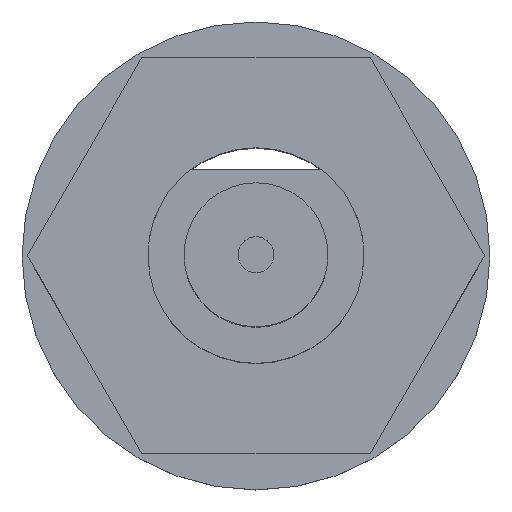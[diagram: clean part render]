
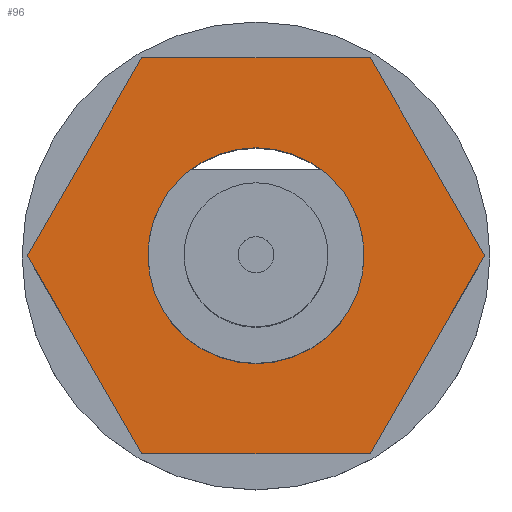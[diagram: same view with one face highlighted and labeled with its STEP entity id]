
A CAD part, top view. The second image highlights one B-rep face of the part: STEP entity #96.
In plain terms, the highlighted planar face has unit normal (0, 0, 1) as drawn and (-1, 0, 0) by its records, which use the part's own axes.
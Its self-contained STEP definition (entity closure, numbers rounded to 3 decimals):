
#11 = VERTEX_POINT ( 'NONE', #146 ) ;
#12 = VERTEX_POINT ( 'NONE', #145 ) ;
#18 = VERTEX_POINT ( 'NONE', #206 ) ;
#19 = ORIENTED_EDGE ( 'NONE', *, *, #971, .T. ) ;
#26 = ORIENTED_EDGE ( 'NONE', *, *, #27, .T. ) ;
#27 = EDGE_CURVE ( 'NONE', #1056, #18, #190, .T. ) ;
#96 = ADVANCED_FACE ( 'NONE', ( #286, #285 ), #284, .F. ) ;
#97 = EDGE_LOOP ( 'NONE', ( #98, #26, #19, #133, #135, #968 ) ) ;
#98 = ORIENTED_EDGE ( 'NONE', *, *, #99, .T. ) ;
#99 = EDGE_CURVE ( 'NONE', #103, #1056, #279, .T. ) ;
#103 = VERTEX_POINT ( 'NONE', #335 ) ;
#115 = EDGE_CURVE ( 'NONE', #116, #125, #369, .T. ) ;
#116 = VERTEX_POINT ( 'NONE', #365 ) ;
#125 = VERTEX_POINT ( 'NONE', #364 ) ;
#133 = ORIENTED_EDGE ( 'NONE', *, *, #134, .T. ) ;
#134 = EDGE_CURVE ( 'NONE', #11, #12, #352, .T. ) ;
#135 = ORIENTED_EDGE ( 'NONE', *, *, #972, .T. ) ;
#145 = CARTESIAN_POINT ( 'NONE',  ( -7.5, 0., 3.175 ) ) ;
#146 = CARTESIAN_POINT ( 'NONE',  ( -7.5, -2.75, 1.588 ) ) ;
#187 = DIRECTION ( 'NONE',  ( 0., -0.866, 0.5 ) ) ;
#188 = VECTOR ( 'NONE', #187, 1000. ) ;
#189 = CARTESIAN_POINT ( 'NONE',  ( -7.5, 0., -3.175 ) ) ;
#190 = LINE ( 'NONE', #189, #188 ) ;
#206 = CARTESIAN_POINT ( 'NONE',  ( -7.5, -2.75, -1.588 ) ) ;
#277 = DIRECTION ( 'NONE',  ( 0., -0.866, -0.5 ) ) ;
#278 = CARTESIAN_POINT ( 'NONE',  ( -7.5, 2.75, -1.588 ) ) ;
#279 = LINE ( 'NONE', #278, #341 ) ;
#280 = DIRECTION ( 'NONE',  ( 0., 0., -1. ) ) ;
#281 = DIRECTION ( 'NONE',  ( 1., 0., 0. ) ) ;
#282 = CARTESIAN_POINT ( 'NONE',  ( -7.5, 5.5, 0. ) ) ;
#283 = AXIS2_PLACEMENT_3D ( 'NONE', #282, #281, #280 ) ;
#284 = PLANE ( 'NONE',  #283 ) ;
#285 = FACE_BOUND ( 'NONE', #966, .T. ) ;
#286 = FACE_OUTER_BOUND ( 'NONE', #97, .T. ) ;
#335 = CARTESIAN_POINT ( 'NONE',  ( -7.5, 2.75, -1.588 ) ) ;
#341 = VECTOR ( 'NONE', #277, 1000. ) ;
#349 = DIRECTION ( 'NONE',  ( 0., 0.866, 0.5 ) ) ;
#350 = VECTOR ( 'NONE', #349, 1000. ) ;
#351 = CARTESIAN_POINT ( 'NONE',  ( -7.5, -2.75, 1.588 ) ) ;
#352 = LINE ( 'NONE', #351, #350 ) ;
#364 = CARTESIAN_POINT ( 'NONE',  ( -7.5, 0., 1.5 ) ) ;
#365 = CARTESIAN_POINT ( 'NONE',  ( -7.5, 0., -1.5 ) ) ;
#366 = DIRECTION ( 'NONE',  ( 0., 0., 1. ) ) ;
#367 = DIRECTION ( 'NONE',  ( -1., 0., 0. ) ) ;
#368 = AXIS2_PLACEMENT_3D ( 'NONE', #373, #367, #366 ) ;
#369 = CIRCLE ( 'NONE', #368, 1.5 ) ;
#373 = CARTESIAN_POINT ( 'NONE',  ( -7.5, 0., 0. ) ) ;
#423 = DIRECTION ( 'NONE',  ( 0., 0.866, -0.5 ) ) ;
#424 = VECTOR ( 'NONE', #423, 1000. ) ;
#425 = CARTESIAN_POINT ( 'NONE',  ( -7.5, 0., 3.175 ) ) ;
#426 = LINE ( 'NONE', #425, #424 ) ;
#427 = DIRECTION ( 'NONE',  ( 0., 0., 1. ) ) ;
#428 = VECTOR ( 'NONE', #427, 1000. ) ;
#429 = CARTESIAN_POINT ( 'NONE',  ( -7.5, -2.75, -1.588 ) ) ;
#430 = LINE ( 'NONE', #429, #428 ) ;
#431 = CARTESIAN_POINT ( 'NONE',  ( -7.5, 2.75, 1.588 ) ) ;
#432 = DIRECTION ( 'NONE',  ( 0., 0., -1. ) ) ;
#433 = VECTOR ( 'NONE', #432, 1000. ) ;
#434 = CARTESIAN_POINT ( 'NONE',  ( -7.5, 2.75, 1.588 ) ) ;
#435 = LINE ( 'NONE', #434, #433 ) ;
#436 = DIRECTION ( 'NONE',  ( 0., 0., 1. ) ) ;
#437 = DIRECTION ( 'NONE',  ( -1., 0., 0. ) ) ;
#438 = CARTESIAN_POINT ( 'NONE',  ( -7.5, 0., 0. ) ) ;
#439 = AXIS2_PLACEMENT_3D ( 'NONE', #438, #437, #436 ) ;
#440 = CIRCLE ( 'NONE', #439, 1.5 ) ;
#592 = CARTESIAN_POINT ( 'NONE',  ( -7.5, 0., -3.175 ) ) ;
#963 = ORIENTED_EDGE ( 'NONE', *, *, #964, .F. ) ;
#964 = EDGE_CURVE ( 'NONE', #125, #116, #440, .T. ) ;
#965 = ORIENTED_EDGE ( 'NONE', *, *, #115, .F. ) ;
#966 = EDGE_LOOP ( 'NONE', ( #965, #963 ) ) ;
#967 = EDGE_CURVE ( 'NONE', #969, #103, #435, .T. ) ;
#968 = ORIENTED_EDGE ( 'NONE', *, *, #967, .T. ) ;
#969 = VERTEX_POINT ( 'NONE', #431 ) ;
#971 = EDGE_CURVE ( 'NONE', #18, #11, #430, .T. ) ;
#972 = EDGE_CURVE ( 'NONE', #12, #969, #426, .T. ) ;
#1056 = VERTEX_POINT ( 'NONE', #592 ) ;
